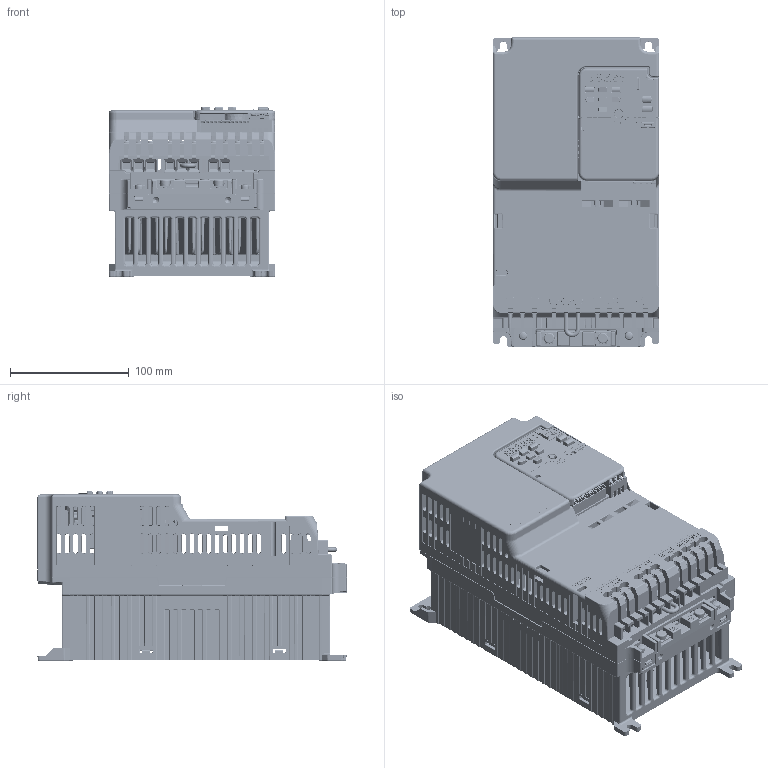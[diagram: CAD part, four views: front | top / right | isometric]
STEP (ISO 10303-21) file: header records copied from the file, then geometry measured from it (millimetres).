
FILE_DESCRIPTION((''),'2;1');
FILE_NAME('GA500_STD_FRAME_V5-C_ASM','2019-03-08T',('jam'),('YASKAWA ELECTRIC CORCORATION'),'PRO/ENGINEER BY PARAMETRIC TECHNOLOGY CORPORATION, 2015440','PRO/ENGINEER BY PARAMETRIC TECHNOLOGY CORPORATION, 2015440','');
FILE_SCHEMA(('CONFIG_CONTROL_DESIGN'));
Products named in the file (125): LAY_KIPR-GA50_Q_4023_1; 400-104-419_AF0_1; 400-115-309_1; SCAT41027-B_1; 06025VG-24S-BA-YY_02_1; 400-104-415_1; VGEM_47P5_PB_0622_AF1_1; MKDS10HV_5-ZB-10P16_1; MKDS10HV_3-ZB-10P16_1; VGEM_47P5_PB_0622_AF0_ASM_1_ASM; SCAT41285_M4X12_TOGARISAKIKARI_; 400-104-413_AF0_1; 400-104-023-01F-5_1; 95003-2884_1; B12B-PASK-1_1; MANIFOLD_SOLID_BREP_543046; MANIFOLD_SOLID_BREP_543197; MANIFOLD_SOLID_BREP_543348; MANIFOLD_SOLID_BREP_543499; MANIFOLD_SOLID_BREP_543652; MANIFOLD_SOLID_BREP_543803; MANIFOLD_SOLID_BREP_543954; MANIFOLD_SOLID_BREP_544105; MANIFOLD_SOLID_BREP_544256; MANIFOLD_SOLID_BREP_544407; MANIFOLD_SOLID_BREP_544558; 1734753-1_AF1_1_ASM; MANIFOLD_SOLID_BREP_554476; MANIFOLD_SOLID_BREP_554660; MANIFOLD_SOLID_BREP_554844; MANIFOLD_SOLID_BREP_555028; MANIFOLD_SOLID_BREP_555212; MANIFOLD_SOLID_BREP_555363; MANIFOLD_SOLID_BREP_555514; MANIFOLD_SOLID_BREP_555665; MANIFOLD_SOLID_BREP_555816; MANIFOLD_SOLID_BREP_555967; MANIFOLD_SOLID_BREP_556118; MANIFOLD_SOLID_BREP_556269; MANIFOLD_SOLID_BREP_556420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
Assembly tree (130 placements, depth 6):
  GA500_STD_FRAME_V5-C_ASM
    KIPR-GA50_Q_4023_ASM_3_ASM
      LAY_KIPR-GA50_Q_4023_1
      400-104-419_AF0_1
      400-115-309_1
      SCAT41027-B_1  x2
      06025VG-24S-BA-YY_02_1
      400-104-415_1
      VGEM_47P5_PB_0622_AF0_ASM_1_ASM
        VGEM_47P5_PB_0622_AF1_1
        MKDS10HV_5-ZB-10P16_1
        MKDS10HV_3-ZB-10P16_1  x2
      SCAT41285_M4X12_TOGARISAKIKARI_  x4
      400-104-413_AF0_1
      KTC750050-SXXXX_ASM_1_ASM
        400-104-023-01F-5_1
        95003-2884_1
        B12B-PASK-1_1
        1734753-1_AF1_1_ASM
          MANIFOLD_SOLID_BREP_543046
          MANIFOLD_SOLID_BREP_543197
          MANIFOLD_SOLID_BREP_543348
          MANIFOLD_SOLID_BREP_543499
          MANIFOLD_SOLID_BREP_543652
          MANIFOLD_SOLID_BREP_543803
          MANIFOLD_SOLID_BREP_543954
          MANIFOLD_SOLID_BREP_544105
          MANIFOLD_SOLID_BREP_544256
          MANIFOLD_SOLID_BREP_544407
          MANIFOLD_SOLID_BREP_544558
        DHB-PD20-S131N-4P9_AF1_1_ASM
          MANIFOLD_SOLID_BREP_554476
          MANIFOLD_SOLID_BREP_554660
          MANIFOLD_SOLID_BREP_554844
          MANIFOLD_SOLID_BREP_555028
          MANIFOLD_SOLID_BREP_555212
          MANIFOLD_SOLID_BREP_555363
          MANIFOLD_SOLID_BREP_555514
          MANIFOLD_SOLID_BREP_555665
          MANIFOLD_SOLID_BREP_555816
          MANIFOLD_SOLID_BREP_555967
          MANIFOLD_SOLID_BREP_556118
          MANIFOLD_SOLID_BREP_556269
          MANIFOLD_SOLID_BREP_556420
          MANIFOLD_SOLID_BREP_556571
          MANIFOLD_SOLID_BREP_556722
          MANIFOLD_SOLID_BREP_556873
          MANIFOLD_SOLID_BREP_557024
          MANIFOLD_SOLID_BREP_557175
          MANIFOLD_SOLID_BREP_557326
          MANIFOLD_SOLID_BREP_557477
          MANIFOLD_SOLID_BREP_557628
          MANIFOLD_SOLID_BREP_557779
          MANIFOLD_SOLID_BREP_557930
          MANIFOLD_SOLID_BREP_558081
          MANIFOLD_SOLID_BREP_558232
        KARI_SPTA1_9-3P5_AF0_1_ASM
          MANIFOLD_SOLID_BREP_564800
          MANIFOLD_SOLID_BREP_564951
          MANIFOLD_SOLID_BREP_565102
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Bounding box: 140.02 x 260 x 142.75 mm (x, y, z)
Volume: 1097331.1 mm3; surface area: 656281.3 mm2
Topology: 116 solids, 130 shells, 19560 faces, 52634 edges, 33595 vertices
Faces by surface type: plane 12035, cylinder 4037, bspline 1592, cone 1076, torus 600, sphere 220
Entity records: 705891 total; most frequent: CARTESIAN_POINT 236461, ORIENTED_EDGE 102594, DIRECTION 88823, EDGE_CURVE 51297, VECTOR 36077, LINE 36077, VERTEX_POINT 32902, AXIS2_PLACEMENT_3D 26373
